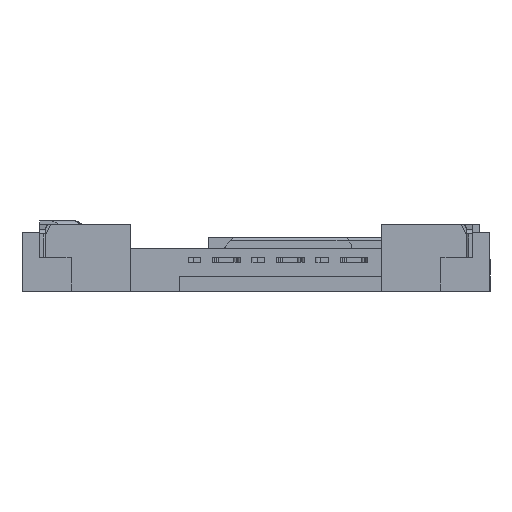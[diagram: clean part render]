
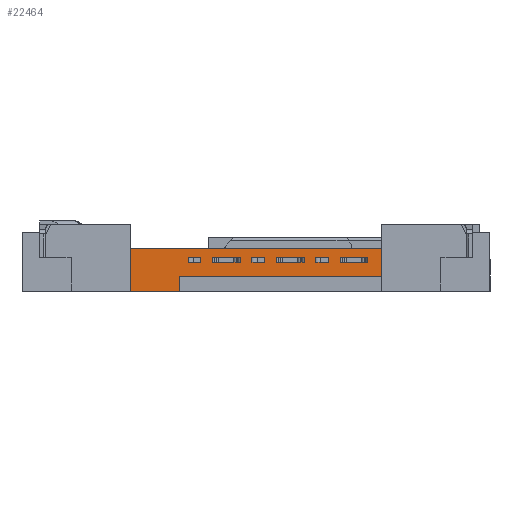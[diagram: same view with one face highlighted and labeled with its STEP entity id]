
A CAD part, left-side view. The second image highlights one B-rep face of the part: STEP entity #22464.
In plain terms, the highlighted planar face has unit normal (-1, 0, 0).
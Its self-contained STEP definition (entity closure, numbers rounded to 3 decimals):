
#22=DIRECTION('',(0.,-1.,0.));
#23=VECTOR('',#22,1.95);
#24=CARTESIAN_POINT('',(-20.3,5.,0.));
#25=LINE('',#24,#23);
#5875=DIRECTION('',(0.,0.,1.));
#5876=VECTOR('',#5875,1.1);
#5877=CARTESIAN_POINT('',(-20.3,-5.,0.6));
#5878=LINE('',#5877,#5876);
#5904=DIRECTION('',(0.,0.,-1.));
#5905=VECTOR('',#5904,0.6);
#5906=CARTESIAN_POINT('',(-20.3,3.05,0.6));
#5907=LINE('',#5906,#5905);
#5908=DIRECTION('',(0.,0.,1.));
#5909=VECTOR('',#5908,1.7);
#5910=CARTESIAN_POINT('',(-20.3,5.,0.));
#5911=LINE('',#5910,#5909);
#5912=DIRECTION('',(0.,-1.,0.));
#5913=VECTOR('',#5912,10.);
#5914=CARTESIAN_POINT('',(-20.3,5.,1.7));
#5915=LINE('',#5914,#5913);
#5916=DIRECTION('',(0.,0.,-1.));
#5917=VECTOR('',#5916,0.2);
#5918=CARTESIAN_POINT('',(-20.3,-3.35,1.35));
#5919=LINE('',#5918,#5917);
#5920=DIRECTION('',(0.,-1.,0.));
#5921=VECTOR('',#5920,1.1);
#5922=CARTESIAN_POINT('',(-20.3,-3.35,1.15));
#5923=LINE('',#5922,#5921);
#5924=DIRECTION('',(0.,0.,-1.));
#5925=VECTOR('',#5924,0.2);
#5926=CARTESIAN_POINT('',(-20.3,-0.81,1.35));
#5927=LINE('',#5926,#5925);
#5928=DIRECTION('',(0.,-1.,0.));
#5929=VECTOR('',#5928,1.1);
#5930=CARTESIAN_POINT('',(-20.3,-0.81,1.15));
#5931=LINE('',#5930,#5929);
#5932=DIRECTION('',(0.,0.,-1.));
#5933=VECTOR('',#5932,0.2);
#5934=CARTESIAN_POINT('',(-20.3,1.73,1.35));
#5935=LINE('',#5934,#5933);
#5936=DIRECTION('',(0.,-1.,0.));
#5937=VECTOR('',#5936,1.1);
#5938=CARTESIAN_POINT('',(-20.3,1.73,1.15));
#5939=LINE('',#5938,#5937);
#5940=DIRECTION('',(0.,0.,-1.));
#5941=VECTOR('',#5940,0.2);
#5942=CARTESIAN_POINT('',(-20.3,-2.38,1.35));
#5943=LINE('',#5942,#5941);
#5944=DIRECTION('',(0.,-1.,0.));
#5945=VECTOR('',#5944,0.5);
#5946=CARTESIAN_POINT('',(-20.3,-2.38,1.15));
#5947=LINE('',#5946,#5945);
#5948=DIRECTION('',(0.,0.,-1.));
#5949=VECTOR('',#5948,0.2);
#5950=CARTESIAN_POINT('',(-20.3,0.16,1.35));
#5951=LINE('',#5950,#5949);
#5952=DIRECTION('',(0.,-1.,0.));
#5953=VECTOR('',#5952,0.5);
#5954=CARTESIAN_POINT('',(-20.3,0.16,1.15));
#5955=LINE('',#5954,#5953);
#5956=DIRECTION('',(0.,0.,-1.));
#5957=VECTOR('',#5956,0.2);
#5958=CARTESIAN_POINT('',(-20.3,2.7,1.35));
#5959=LINE('',#5958,#5957);
#5960=DIRECTION('',(0.,-1.,0.));
#5961=VECTOR('',#5960,0.5);
#5962=CARTESIAN_POINT('',(-20.3,2.7,1.15));
#5963=LINE('',#5962,#5961);
#5964=DIRECTION('',(0.,-1.,0.));
#5965=VECTOR('',#5964,8.05);
#5966=CARTESIAN_POINT('',(-20.3,3.05,0.6));
#5967=LINE('',#5966,#5965);
#5999=DIRECTION('',(0.,-1.,0.));
#6000=VECTOR('',#5999,1.1);
#6001=CARTESIAN_POINT('',(-20.3,-3.35,1.35));
#6002=LINE('',#6001,#6000);
#7161=DIRECTION('',(0.,-1.,0.));
#7162=VECTOR('',#7161,0.5);
#7163=CARTESIAN_POINT('',(-20.3,-2.38,1.35));
#7164=LINE('',#7163,#7162);
#7265=DIRECTION('',(0.,0.,-1.));
#7266=VECTOR('',#7265,0.2);
#7267=CARTESIAN_POINT('',(-20.3,-2.88,1.35));
#7268=LINE('',#7267,#7266);
#7755=DIRECTION('',(0.,0.,-1.));
#7756=VECTOR('',#7755,0.2);
#7757=CARTESIAN_POINT('',(-20.3,-4.45,1.35));
#7758=LINE('',#7757,#7756);
#7826=DIRECTION('',(0.,-1.,0.));
#7827=VECTOR('',#7826,1.1);
#7828=CARTESIAN_POINT('',(-20.3,-0.81,1.35));
#7829=LINE('',#7828,#7827);
#7975=DIRECTION('',(0.,0.,-1.));
#7976=VECTOR('',#7975,0.2);
#7977=CARTESIAN_POINT('',(-20.3,-1.91,1.35));
#7978=LINE('',#7977,#7976);
#8042=DIRECTION('',(0.,-1.,0.));
#8043=VECTOR('',#8042,1.1);
#8044=CARTESIAN_POINT('',(-20.3,1.73,1.35));
#8045=LINE('',#8044,#8043);
#8195=DIRECTION('',(0.,0.,-1.));
#8196=VECTOR('',#8195,0.2);
#8197=CARTESIAN_POINT('',(-20.3,0.63,1.35));
#8198=LINE('',#8197,#8196);
#8251=DIRECTION('',(0.,-1.,0.));
#8252=VECTOR('',#8251,0.5);
#8253=CARTESIAN_POINT('',(-20.3,0.16,1.35));
#8254=LINE('',#8253,#8252);
#8355=DIRECTION('',(0.,0.,-1.));
#8356=VECTOR('',#8355,0.2);
#8357=CARTESIAN_POINT('',(-20.3,-0.34,1.35));
#8358=LINE('',#8357,#8356);
#8771=DIRECTION('',(0.,-1.,0.));
#8772=VECTOR('',#8771,0.5);
#8773=CARTESIAN_POINT('',(-20.3,2.7,1.35));
#8774=LINE('',#8773,#8772);
#8875=DIRECTION('',(0.,0.,-1.));
#8876=VECTOR('',#8875,0.2);
#8877=CARTESIAN_POINT('',(-20.3,2.2,1.35));
#8878=LINE('',#8877,#8876);
#10700=CARTESIAN_POINT('',(-20.3,5.,0.));
#10701=VERTEX_POINT('',#10700);
#10702=CARTESIAN_POINT('',(-20.3,3.05,0.));
#10703=VERTEX_POINT('',#10702);
#12655=CARTESIAN_POINT('',(-20.3,-5.,1.7));
#12656=VERTEX_POINT('',#12655);
#12657=CARTESIAN_POINT('',(-20.3,5.,1.7));
#12658=VERTEX_POINT('',#12657);
#12771=CARTESIAN_POINT('',(-20.3,-3.35,1.35));
#12772=VERTEX_POINT('',#12771);
#12773=CARTESIAN_POINT('',(-20.3,-4.45,1.35));
#12774=VERTEX_POINT('',#12773);
#12803=CARTESIAN_POINT('',(-20.3,-0.81,1.35));
#12804=VERTEX_POINT('',#12803);
#12805=CARTESIAN_POINT('',(-20.3,-1.91,1.35));
#12806=VERTEX_POINT('',#12805);
#12831=CARTESIAN_POINT('',(-20.3,1.73,1.35));
#12832=VERTEX_POINT('',#12831);
#12833=CARTESIAN_POINT('',(-20.3,0.63,1.35));
#12834=VERTEX_POINT('',#12833);
#13183=CARTESIAN_POINT('',(-20.3,-5.,0.6));
#13184=VERTEX_POINT('',#13183);
#13189=CARTESIAN_POINT('',(-20.3,3.05,0.6));
#13190=VERTEX_POINT('',#13189);
#13191=CARTESIAN_POINT('',(-20.3,-3.35,1.15));
#13192=VERTEX_POINT('',#13191);
#13193=CARTESIAN_POINT('',(-20.3,-4.45,1.15));
#13194=VERTEX_POINT('',#13193);
#13195=CARTESIAN_POINT('',(-20.3,-0.81,1.15));
#13196=VERTEX_POINT('',#13195);
#13197=CARTESIAN_POINT('',(-20.3,-1.91,1.15));
#13198=VERTEX_POINT('',#13197);
#13199=CARTESIAN_POINT('',(-20.3,1.73,1.15));
#13200=VERTEX_POINT('',#13199);
#13201=CARTESIAN_POINT('',(-20.3,0.63,1.15));
#13202=VERTEX_POINT('',#13201);
#13203=CARTESIAN_POINT('',(-20.3,-2.38,1.35));
#13204=CARTESIAN_POINT('',(-20.3,-2.88,1.35));
#13205=VERTEX_POINT('',#13203);
#13206=VERTEX_POINT('',#13204);
#13207=CARTESIAN_POINT('',(-20.3,-2.38,1.15));
#13208=VERTEX_POINT('',#13207);
#13209=CARTESIAN_POINT('',(-20.3,-2.88,1.15));
#13210=VERTEX_POINT('',#13209);
#13211=CARTESIAN_POINT('',(-20.3,0.16,1.35));
#13212=CARTESIAN_POINT('',(-20.3,-0.34,1.35));
#13213=VERTEX_POINT('',#13211);
#13214=VERTEX_POINT('',#13212);
#13215=CARTESIAN_POINT('',(-20.3,0.16,1.15));
#13216=VERTEX_POINT('',#13215);
#13217=CARTESIAN_POINT('',(-20.3,-0.34,1.15));
#13218=VERTEX_POINT('',#13217);
#13219=CARTESIAN_POINT('',(-20.3,2.7,1.35));
#13220=CARTESIAN_POINT('',(-20.3,2.2,1.35));
#13221=VERTEX_POINT('',#13219);
#13222=VERTEX_POINT('',#13220);
#13223=CARTESIAN_POINT('',(-20.3,2.7,1.15));
#13224=VERTEX_POINT('',#13223);
#13225=CARTESIAN_POINT('',(-20.3,2.2,1.15));
#13226=VERTEX_POINT('',#13225);
#22390=CARTESIAN_POINT('',(-20.3,-5.,2.65));
#22391=DIRECTION('',(1.,0.,0.));
#22392=DIRECTION('',(0.,1.,0.));
#22393=AXIS2_PLACEMENT_3D('',#22390,#22391,#22392);
#22394=PLANE('',#22393);
#22396=ORIENTED_EDGE('',*,*,#22395,.F.);
#22397=ORIENTED_EDGE('',*,*,#22382,.T.);
#22398=ORIENTED_EDGE('',*,*,#14135,.F.);
#22399=ORIENTED_EDGE('',*,*,#15458,.T.);
#22400=ORIENTED_EDGE('',*,*,#15584,.T.);
#22401=ORIENTED_EDGE('',*,*,#22350,.F.);
#22402=EDGE_LOOP('',(#22396,#22397,#22398,#22399,#22400,#22401));
#22403=FACE_OUTER_BOUND('',#22402,.F.);
#22405=ORIENTED_EDGE('',*,*,#22404,.F.);
#22407=ORIENTED_EDGE('',*,*,#22406,.T.);
#22409=ORIENTED_EDGE('',*,*,#22408,.T.);
#22411=ORIENTED_EDGE('',*,*,#22410,.F.);
#22412=EDGE_LOOP('',(#22405,#22407,#22409,#22411));
#22413=FACE_BOUND('',#22412,.F.);
#22415=ORIENTED_EDGE('',*,*,#22414,.F.);
#22417=ORIENTED_EDGE('',*,*,#22416,.T.);
#22419=ORIENTED_EDGE('',*,*,#22418,.T.);
#22421=ORIENTED_EDGE('',*,*,#22420,.F.);
#22422=EDGE_LOOP('',(#22415,#22417,#22419,#22421));
#22423=FACE_BOUND('',#22422,.F.);
#22425=ORIENTED_EDGE('',*,*,#22424,.F.);
#22427=ORIENTED_EDGE('',*,*,#22426,.T.);
#22429=ORIENTED_EDGE('',*,*,#22428,.T.);
#22431=ORIENTED_EDGE('',*,*,#22430,.F.);
#22432=EDGE_LOOP('',(#22425,#22427,#22429,#22431));
#22433=FACE_BOUND('',#22432,.F.);
#22435=ORIENTED_EDGE('',*,*,#22434,.F.);
#22437=ORIENTED_EDGE('',*,*,#22436,.T.);
#22439=ORIENTED_EDGE('',*,*,#22438,.T.);
#22441=ORIENTED_EDGE('',*,*,#22440,.F.);
#22442=EDGE_LOOP('',(#22435,#22437,#22439,#22441));
#22443=FACE_BOUND('',#22442,.F.);
#22445=ORIENTED_EDGE('',*,*,#22444,.F.);
#22447=ORIENTED_EDGE('',*,*,#22446,.T.);
#22449=ORIENTED_EDGE('',*,*,#22448,.T.);
#22451=ORIENTED_EDGE('',*,*,#22450,.F.);
#22452=EDGE_LOOP('',(#22445,#22447,#22449,#22451));
#22453=FACE_BOUND('',#22452,.F.);
#22455=ORIENTED_EDGE('',*,*,#22454,.F.);
#22457=ORIENTED_EDGE('',*,*,#22456,.T.);
#22459=ORIENTED_EDGE('',*,*,#22458,.T.);
#22461=ORIENTED_EDGE('',*,*,#22460,.F.);
#22462=EDGE_LOOP('',(#22455,#22457,#22459,#22461));
#22463=FACE_BOUND('',#22462,.F.);
#22464=ADVANCED_FACE('',(#22403,#22413,#22423,#22433,#22443,#22453,#22463),
#22394,.F.);
#14135=EDGE_CURVE('',#10701,#10703,#25,.T.);
#15458=EDGE_CURVE('',#10701,#12658,#5911,.T.);
#15584=EDGE_CURVE('',#12658,#12656,#5915,.T.);
#22350=EDGE_CURVE('',#13184,#12656,#5878,.T.);
#22382=EDGE_CURVE('',#13190,#10703,#5907,.T.);
#22395=EDGE_CURVE('',#13190,#13184,#5967,.T.);
#22404=EDGE_CURVE('',#12772,#12774,#6002,.T.);
#22406=EDGE_CURVE('',#12772,#13192,#5919,.T.);
#22408=EDGE_CURVE('',#13192,#13194,#5923,.T.);
#22410=EDGE_CURVE('',#12774,#13194,#7758,.T.);
#22414=EDGE_CURVE('',#12804,#12806,#7829,.T.);
#22416=EDGE_CURVE('',#12804,#13196,#5927,.T.);
#22418=EDGE_CURVE('',#13196,#13198,#5931,.T.);
#22420=EDGE_CURVE('',#12806,#13198,#7978,.T.);
#22424=EDGE_CURVE('',#12832,#12834,#8045,.T.);
#22426=EDGE_CURVE('',#12832,#13200,#5935,.T.);
#22428=EDGE_CURVE('',#13200,#13202,#5939,.T.);
#22430=EDGE_CURVE('',#12834,#13202,#8198,.T.);
#22434=EDGE_CURVE('',#13205,#13206,#7164,.T.);
#22436=EDGE_CURVE('',#13205,#13208,#5943,.T.);
#22438=EDGE_CURVE('',#13208,#13210,#5947,.T.);
#22440=EDGE_CURVE('',#13206,#13210,#7268,.T.);
#22444=EDGE_CURVE('',#13213,#13214,#8254,.T.);
#22446=EDGE_CURVE('',#13213,#13216,#5951,.T.);
#22448=EDGE_CURVE('',#13216,#13218,#5955,.T.);
#22450=EDGE_CURVE('',#13214,#13218,#8358,.T.);
#22454=EDGE_CURVE('',#13221,#13222,#8774,.T.);
#22456=EDGE_CURVE('',#13221,#13224,#5959,.T.);
#22458=EDGE_CURVE('',#13224,#13226,#5963,.T.);
#22460=EDGE_CURVE('',#13222,#13226,#8878,.T.);
